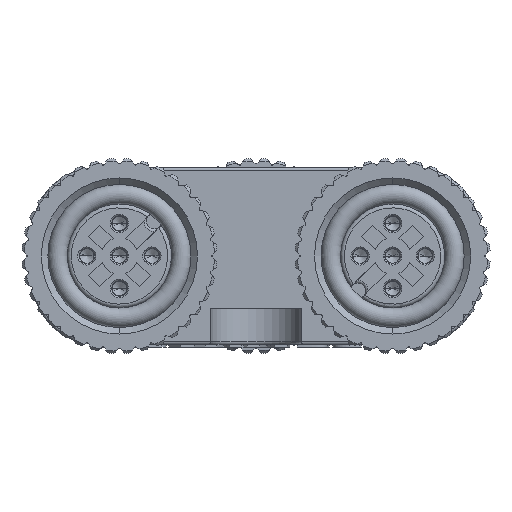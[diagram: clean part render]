
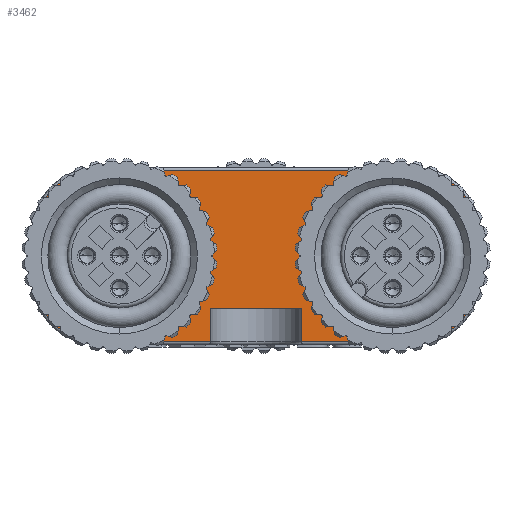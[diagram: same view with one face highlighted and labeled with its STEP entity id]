
A CAD part, left-side view. The second image highlights one B-rep face of the part: STEP entity #3462.
In plain terms, the highlighted planar face has unit normal (-1, 0, 0).
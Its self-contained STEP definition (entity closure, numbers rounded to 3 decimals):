
#955=PLANE('',#31033);
#3462=ADVANCED_FACE('',(#4964,#4965,#4966),#955,.F.);
#4964=FACE_BOUND('',#6011,.T.);
#4965=FACE_BOUND('',#6012,.T.);
#4966=FACE_BOUND('',#6013,.T.);
#6011=EDGE_LOOP('',(#13359));
#6012=EDGE_LOOP('',(#13360));
#6013=EDGE_LOOP('',(#13361,#13362,#13363,#13364,#13365,#13366,#13367,#13368,
#13369,#13370,#13371,#13372));
#7093=CIRCLE('',#30003,4.7);
#7547=CIRCLE('',#30992,4.8);
#7551=CIRCLE('',#30999,4.8);
#7555=CIRCLE('',#31004,4.8);
#7559=CIRCLE('',#31011,4.8);
#7564=CIRCLE('',#31032,4.7);
#13359=ORIENTED_EDGE('',*,*,#21455,.F.);
#13360=ORIENTED_EDGE('',*,*,#23401,.F.);
#13361=ORIENTED_EDGE('',*,*,#23172,.T.);
#13362=ORIENTED_EDGE('',*,*,#23166,.T.);
#13363=ORIENTED_EDGE('',*,*,#23402,.F.);
#13364=ORIENTED_EDGE('',*,*,#23398,.F.);
#13365=ORIENTED_EDGE('',*,*,#23403,.T.);
#13366=ORIENTED_EDGE('',*,*,#23174,.T.);
#13367=ORIENTED_EDGE('',*,*,#23180,.T.);
#13368=ORIENTED_EDGE('',*,*,#23186,.T.);
#13369=ORIENTED_EDGE('',*,*,#23192,.T.);
#13370=ORIENTED_EDGE('',*,*,#23190,.T.);
#13371=ORIENTED_EDGE('',*,*,#23184,.T.);
#13372=ORIENTED_EDGE('',*,*,#23178,.T.);
#18476=VERTEX_POINT('',#41065);
#19610=VERTEX_POINT('',#47677);
#19616=VERTEX_POINT('',#47692);
#19619=VERTEX_POINT('',#47699);
#19620=VERTEX_POINT('',#47704);
#19623=VERTEX_POINT('',#47711);
#19624=VERTEX_POINT('',#47716);
#19627=VERTEX_POINT('',#47723);
#19628=VERTEX_POINT('',#47728);
#19631=VERTEX_POINT('',#47735);
#19632=VERTEX_POINT('',#47740);
#19771=VERTEX_POINT('',#48846);
#19773=VERTEX_POINT('',#48849);
#19775=VERTEX_POINT('',#48855);
#21455=EDGE_CURVE('',#18476,#18476,#7093,.T.);
#23166=EDGE_CURVE('',#19616,#19610,#26717,.T.);
#23172=EDGE_CURVE('',#19620,#19616,#7547,.T.);
#23174=EDGE_CURVE('',#19619,#19623,#26720,.T.);
#23178=EDGE_CURVE('',#19624,#19620,#26723,.T.);
#23180=EDGE_CURVE('',#19623,#19627,#7551,.T.);
#23184=EDGE_CURVE('',#19628,#19624,#7555,.T.);
#23186=EDGE_CURVE('',#19627,#19631,#26724,.T.);
#23190=EDGE_CURVE('',#19632,#19628,#26727,.T.);
#23192=EDGE_CURVE('',#19631,#19632,#7559,.T.);
#23398=EDGE_CURVE('',#19771,#19773,#26814,.T.);
#23401=EDGE_CURVE('',#19775,#19775,#7564,.T.);
#23402=EDGE_CURVE('',#19773,#19610,#26816,.T.);
#23403=EDGE_CURVE('',#19771,#19619,#26817,.T.);
#26717=LINE('',#47695,#28800);
#26720=LINE('',#47712,#28803);
#26723=LINE('',#47719,#28806);
#26724=LINE('',#47736,#28807);
#26727=LINE('',#47743,#28810);
#26814=LINE('',#48848,#28955);
#26816=LINE('',#48856,#28957);
#26817=LINE('',#48857,#28958);
#28800=VECTOR('',#35847,1.);
#28803=VECTOR('',#35866,1.);
#28806=VECTOR('',#35873,1.);
#28807=VECTOR('',#35894,1.);
#28810=VECTOR('',#35901,1.);
#28955=VECTOR('',#36088,1.);
#28957=VECTOR('',#36096,1.);
#28958=VECTOR('',#36097,1.);
#30003=AXIS2_PLACEMENT_3D('',#41064,#32940,#32941);
#30992=AXIS2_PLACEMENT_3D('',#47707,#35860,#35861);
#30999=AXIS2_PLACEMENT_3D('',#47724,#35878,#35879);
#31004=AXIS2_PLACEMENT_3D('',#47731,#35888,#35889);
#31011=AXIS2_PLACEMENT_3D('',#47746,#35906,#35907);
#31032=AXIS2_PLACEMENT_3D('',#48854,#36094,#36095);
#31033=AXIS2_PLACEMENT_3D('',#48858,#36098,#36099);
#32940=DIRECTION('',(-1.,0.,0.));
#32941=DIRECTION('',(0.,0.,-1.));
#35847=DIRECTION('',(0.,-1.,0.));
#35860=DIRECTION('',(-1.,0.,0.));
#35861=DIRECTION('',(0.,0.,-1.));
#35866=DIRECTION('',(0.,-1.,0.));
#35873=DIRECTION('',(0.,0.,-1.));
#35878=DIRECTION('',(-1.,0.,0.));
#35879=DIRECTION('',(0.,0.,-1.));
#35888=DIRECTION('',(-1.,0.,0.));
#35889=DIRECTION('',(0.,0.,-1.));
#35894=DIRECTION('',(0.,0.,1.));
#35901=DIRECTION('',(0.,1.,0.));
#35906=DIRECTION('',(-1.,0.,0.));
#35907=DIRECTION('',(0.,0.,-1.));
#36088=DIRECTION('',(0.,1.,0.));
#36094=DIRECTION('',(-1.,0.,0.));
#36095=DIRECTION('',(0.,0.,-1.));
#36096=DIRECTION('',(0.,0.,-1.));
#36097=DIRECTION('',(0.,0.,-1.));
#36098=DIRECTION('',(1.,0.,0.));
#36099=DIRECTION('',(0.,0.,1.));
#41064=CARTESIAN_POINT('',(0.,8.5,6.8));
#41065=CARTESIAN_POINT('',(0.,8.5,2.1));
#47677=CARTESIAN_POINT('',(0.,22.5,0.2));
#47692=CARTESIAN_POINT('',(0.,31.2,0.2));
#47695=CARTESIAN_POINT('',(0.,0.,0.2));
#47699=CARTESIAN_POINT('',(0.,15.5,0.2));
#47704=CARTESIAN_POINT('',(0.,36.,5.));
#47707=CARTESIAN_POINT('',(0.,31.2,5.));
#47711=CARTESIAN_POINT('',(0.,6.8,0.2));
#47712=CARTESIAN_POINT('',(0.,0.,0.2));
#47716=CARTESIAN_POINT('',(0.,36.,8.6));
#47719=CARTESIAN_POINT('',(0.,36.,0.));
#47723=CARTESIAN_POINT('',(0.,2.,5.));
#47724=CARTESIAN_POINT('',(0.,6.8,5.));
#47728=CARTESIAN_POINT('',(0.,31.2,13.4));
#47731=CARTESIAN_POINT('',(0.,31.2,8.6));
#47735=CARTESIAN_POINT('',(0.,2.,8.6));
#47736=CARTESIAN_POINT('',(0.,2.,0.));
#47740=CARTESIAN_POINT('',(0.,6.8,13.4));
#47743=CARTESIAN_POINT('',(0.,0.,13.4));
#47746=CARTESIAN_POINT('',(0.,6.8,8.6));
#48846=CARTESIAN_POINT('',(0.,15.5,2.8));
#48848=CARTESIAN_POINT('',(0.,19.,2.8));
#48849=CARTESIAN_POINT('',(0.,22.5,2.8));
#48854=CARTESIAN_POINT('',(0.,29.5,6.8));
#48855=CARTESIAN_POINT('',(0.,29.5,2.1));
#48856=CARTESIAN_POINT('',(0.,22.5,0.));
#48857=CARTESIAN_POINT('',(0.,15.5,0.));
#48858=CARTESIAN_POINT('',(0.,0.,0.));
